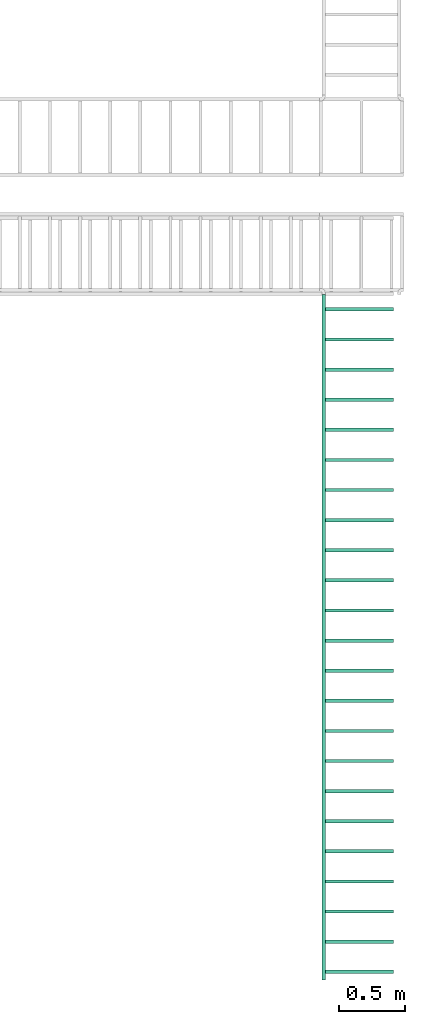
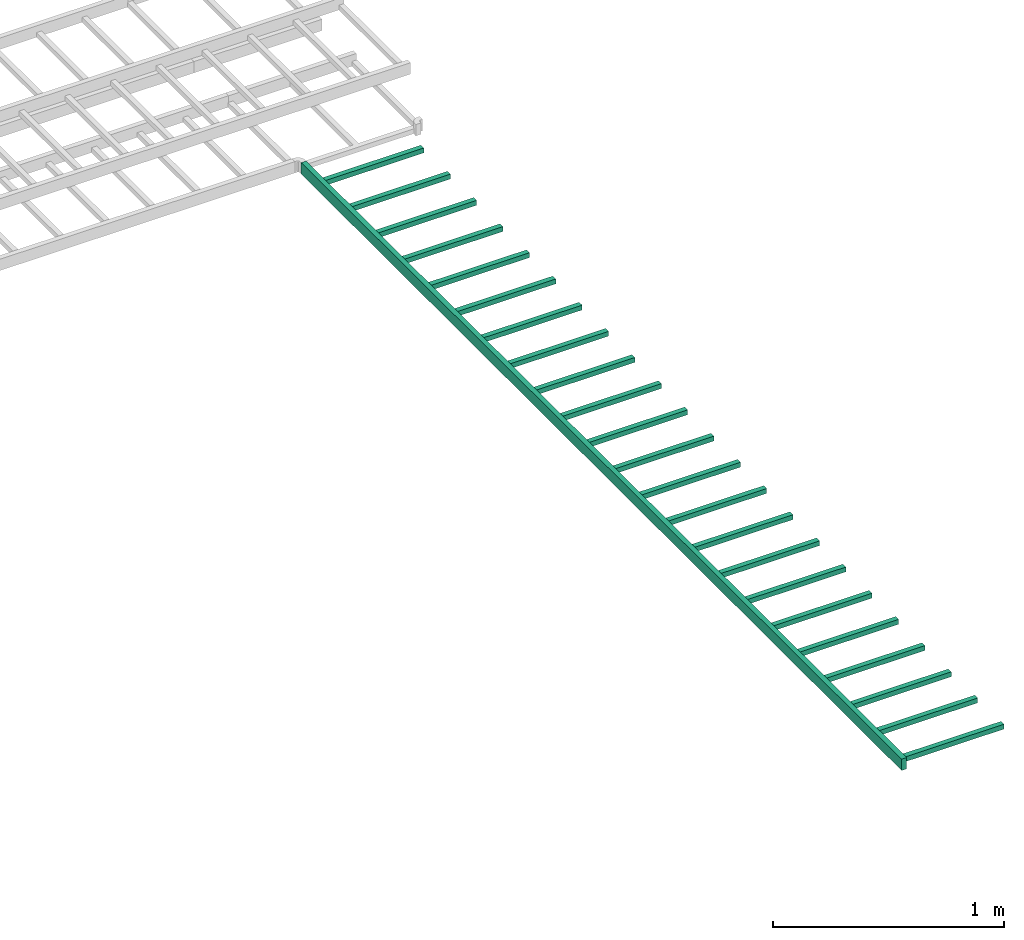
# One storey, part 6 of 7: 1 flow segment.
"""IFC2X3 building model written with IfcOpenShell, lengths in millimetres."""

from ifc_helpers import new_model, entity, si_unit, converted_unit, derived_unit, direction, frame, place, context, subcontext, project, spatial, faceted_brep, type_object, element, save


model = new_model("IFC2X3")

# Units and contexts
model_context = context("Model", 3, precision=0.01, world=frame((0.0, 4.29681676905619e-09, 0.0)), true_north=direction((4.01073788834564e-13, 1.0)))
plan_context = context("Plan", 3, precision=0.01, world=frame((0.0, 4.29681676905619e-09, 0.0)), true_north=direction((4.01073788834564e-13, 1.0)))
body_context = subcontext(model_context, "Body", "Model", "MODEL_VIEW")
ifc_project = project(units=[converted_unit("PLANEANGLEUNIT", "DEGREE", entity("IfcPositiveLengthMeasure", 0.0174532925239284), si_unit("PLANEANGLEUNIT", "RADIAN"), dimensions=[0, 0, 0, 0, 0, 0, 0]), si_unit("AREAUNIT", "SQUARE_METRE"), si_unit("LENGTHUNIT", "METRE", prefix="MILLI"), si_unit("MASSUNIT", "GRAM", prefix="KILO"), si_unit("POWERUNIT", "WATT"), si_unit("PRESSUREUNIT", "PASCAL", prefix="KILO"), si_unit("FORCEUNIT", "NEWTON", prefix="KILO"), si_unit("ELECTRICVOLTAGEUNIT", "VOLT"), si_unit("ELECTRICCURRENTUNIT", "AMPERE"), si_unit("THERMODYNAMICTEMPERATUREUNIT", "DEGREE_CELSIUS"), si_unit("TIMEUNIT", "SECOND"), si_unit("VOLUMEUNIT", "CUBIC_METRE"), derived_unit("LINEARVELOCITYUNIT", [(si_unit("LENGTHUNIT", "METRE"), 1), (si_unit("TIMEUNIT", "SECOND"), -1)]), derived_unit("VOLUMETRICFLOWRATEUNIT", [(si_unit("VOLUMEUNIT", "CUBIC_METRE"), 1), (si_unit("TIMEUNIT", "SECOND"), -1)]), derived_unit("THERMALTRANSMITTANCEUNIT", [(si_unit("POWERUNIT", "WATT"), 1), (si_unit("THERMODYNAMICTEMPERATUREUNIT", "KELVIN"), -1), (si_unit("AREAUNIT", "SQUARE_METRE"), -1)]), derived_unit("SOUNDPRESSUREUNIT", [(si_unit("PRESSUREUNIT", "PASCAL"), 1)])], contexts=[model_context, plan_context])

# Site, building, storey
site_placement = place(None, frame((0.0, -4.29681676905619e-09, 0.0), z_axis=(0.0, 0.0, 1.0), x_axis=(1.0, 0.0, 0.0)))
site = spatial("IfcSite", under=ifc_project, at=site_placement, Name="ENGM", CompositionType="ELEMENT")
building_placement = place(site_placement, frame((0.0, 4.29681676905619e-09, 0.0), z_axis=(0.0, 0.0, 1.0), x_axis=(1.0, 0.0, 0.0)))
building = spatial("IfcBuilding", under=site, at=building_placement, Name="TS", CompositionType="ELEMENT")
storey_placement = place(building_placement, frame((0.0, 0.0, 207370.0), z_axis=(0.0, 0.0, 1.0), x_axis=(1.0, 0.0, 0.0)))
storey = spatial("IfcBuildingStorey", under=building, at=storey_placement, Name="Nivå E", CompositionType="ELEMENT", Elevation=207370.0)

# Flow segment
cable_carrier_segment_type = type_object("IfcCableCarrierSegmentType", Name="Kabelbro", PredefinedType="CABLELADDERSEGMENT")
flow_segment_placement = place(storey_placement, frame((728901.36631, 433875.5316, 2635.0), z_axis=(0.0, 0.0, 1.0), x_axis=(0.0, 1.0, 0.0)))
element("IfcFlowSegment", 1, at=flow_segment_placement, inside=storey, type_object=cable_carrier_segment_type, Name="Kabelbro", context=body_context, shape_type="Brep", body=[
    faceted_brep([(673.09998, 274.60001, -30.0), (698.50002, 274.60001, -30.0), (698.50002, 274.60001, -4.6), (673.09998, 274.60001, -4.6), (698.50002, -241.223476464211, -28.4563657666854), (698.50002, -241.223476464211, -4.6), (698.50002, -241.223476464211, -30.0), (696.956383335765, -241.223476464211, -4.6), (673.09998, -241.223476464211, -4.6), (673.09998, -241.223476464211, -6.14363423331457), (673.09998, -241.223476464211, -30.0), (674.643616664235, -241.223476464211, -30.0), (901.69998, 274.60001, -30.0), (927.10002, 274.60001, -30.0), (927.10002, 274.60001, -4.6), (901.69998, 274.60001, -4.6), (927.10002, -241.223476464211, -28.4563657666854), (927.10002, -241.223476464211, -4.6), (927.10002, -241.223476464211, -30.0), (925.556383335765, -241.223476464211, -4.6), (901.69998, -241.223476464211, -4.6), (901.69998, -241.223476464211, -6.14363423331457), (901.69998, -241.223476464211, -30.0), (903.243616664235, -241.223476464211, -30.0), (1130.29998, 274.60001, -30.0), (1155.70002, 274.60001, -30.0), (1155.70002, 274.60001, -4.6), (1130.29998, 274.60001, -4.6), (1155.70002, -241.223476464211, -28.4563657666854), (1155.70002, -241.223476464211, -4.6), (1155.70002, -241.223476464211, -30.0), (1154.15638333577, -241.223476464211, -4.6), (1130.29998, -241.223476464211, -4.6), (1130.29998, -241.223476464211, -6.14363423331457), (1130.29998, -241.223476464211, -30.0), (1131.84361666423, -241.223476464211, -30.0), (1358.90005, 274.60001, -30.0), (1384.29995, 274.60001, -30.0), (1384.29995, 274.60001, -4.6), (1358.90005, 274.60001, -4.6), (1384.29995, -241.223476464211, -28.4563657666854), (1384.29995, -241.223476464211, -4.6), (1384.29995, -241.223476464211, -30.0), (1382.75632184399, -241.223476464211, -4.6), (1358.90005, -241.223476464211, -4.6), (1358.90005, -241.223476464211, -6.14363423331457), (1358.90005, -241.223476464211, -30.0), (1360.44367815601, -241.223476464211, -30.0), (1587.50005, 274.60001, -30.0), (1612.89995, 274.60001, -30.0), (1612.89995, 274.60001, -4.6), (1587.50005, 274.60001, -4.6), (1612.89995, -241.223476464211, -28.4563657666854), (1612.89995, -241.223476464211, -4.6), (1612.89995, -241.223476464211, -30.0), (1611.35632184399, -241.223476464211, -4.6), (1587.50005, -241.223476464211, -4.6), (1587.50005, -241.223476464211, -6.14363423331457), (1587.50005, -241.223476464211, -30.0), (1589.04367815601, -241.223476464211, -30.0), (1816.10005, 274.60001, -30.0), (1841.49995, 274.60001, -30.0), (1841.49995, 274.60001, -4.6), (1816.10005, 274.60001, -4.6), (1841.49995, -241.223476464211, -28.4563657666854), (1841.49995, -241.223476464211, -4.6), (1841.49995, -241.223476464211, -30.0), (1839.95632184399, -241.223476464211, -4.6), (1816.10005, -241.223476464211, -4.6), (1816.10005, -241.223476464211, -6.14363423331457), (1816.10005, -241.223476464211, -30.0), (1817.64367815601, -241.223476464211, -30.0), (2044.70005, 274.60001, -30.0), (2070.09995, 274.60001, -30.0), (2070.09995, 274.60001, -4.6), (2044.70005, 274.60001, -4.6), (2070.09995, -241.223476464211, -28.4563657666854), (2070.09995, -241.223476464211, -4.6), (2070.09995, -241.223476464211, -30.0), (2068.55632184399, -241.223476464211, -4.6), (2044.70005, -241.223476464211, -4.6), (2044.70005, -241.223476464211, -6.14363423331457), (2044.70005, -241.223476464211, -30.0), (2046.24367815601, -241.223476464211, -30.0), (2273.30005, 274.60001, -30.0), (2298.69995, 274.60001, -30.0), (2298.69995, 274.60001, -4.6), (2273.30005, 274.60001, -4.6), (2298.69995, -241.223476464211, -28.4563657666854), (2298.69995, -241.223476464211, -4.6), (2298.69995, -241.223476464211, -30.0), (2297.15632184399, -241.223476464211, -4.6), (2273.30005, -241.223476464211, -4.6), (2273.30005, -241.223476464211, -6.14363423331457), (2273.30005, -241.223476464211, -30.0), (2274.84367815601, -241.223476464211, -30.0), (2501.8999, 274.60001, -30.0), (2527.3001, 274.60001, -30.0), (2527.3001, 274.60001, -4.6), (2501.8999, 274.60001, -4.6), (2527.3001, -241.223476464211, -28.4563657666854), (2527.3001, -241.223476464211, -4.6), (2527.3001, -241.223476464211, -30.0), (2525.75645361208, -241.223476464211, -4.6), (2501.8999, -241.223476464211, -4.6), (2501.8999, -241.223476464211, -6.14363423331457), (2501.8999, -241.223476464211, -30.0), (2503.44354638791, -241.223476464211, -30.0), (2730.4999, 274.60001, -30.0), (2755.9001, 274.60001, -30.0), (2755.9001, 274.60001, -4.6), (2730.4999, 274.60001, -4.6), (2755.9001, -241.223476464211, -28.4563657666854), (2755.9001, -241.223476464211, -4.6), (2755.9001, -241.223476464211, -30.0), (2754.35645361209, -241.223476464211, -4.6), (2730.4999, -241.223476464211, -4.6), (2730.4999, -241.223476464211, -6.14363423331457), (2730.4999, -241.223476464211, -30.0), (2732.04354638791, -241.223476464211, -30.0), (2959.0999, 274.60001, -30.0), (2984.5001, 274.60001, -30.0), (2984.5001, 274.60001, -4.6), (2959.0999, 274.60001, -4.6), (2984.5001, -241.223476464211, -28.4563657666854), (2984.5001, -241.223476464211, -4.6), (2984.5001, -241.223476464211, -30.0), (2982.95645361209, -241.223476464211, -4.6), (2959.0999, -241.223476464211, -4.6), (2959.0999, -241.223476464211, -6.14363423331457), (2959.0999, -241.223476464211, -30.0), (2960.64354638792, -241.223476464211, -30.0), (3187.6999, 274.60001, -30.0), (3213.1001, 274.60001, -30.0), (3213.1001, 274.60001, -4.6), (3187.6999, 274.60001, -4.6), (3213.1001, -241.223476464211, -28.4563657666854), (3213.1001, -241.223476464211, -4.6), (3213.1001, -241.223476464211, -30.0), (3211.55645361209, -241.223476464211, -4.6), (3187.6999, -241.223476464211, -4.6), (3187.6999, -241.223476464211, -6.14363423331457), (3187.6999, -241.223476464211, -30.0), (3189.24354638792, -241.223476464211, -30.0), (3416.2999, 274.60001, -30.0), (3441.7001, 274.60001, -30.0), (3441.7001, 274.60001, -4.6), (3416.2999, 274.60001, -4.6), (3441.7001, -241.223476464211, -28.4563657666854), (3441.7001, -241.223476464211, -4.6), (3441.7001, -241.223476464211, -30.0), (3440.15645361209, -241.223476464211, -4.6), (3416.2999, -241.223476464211, -4.6), (3416.2999, -241.223476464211, -6.14363423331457), (3416.2999, -241.223476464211, -30.0), (3417.84354638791, -241.223476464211, -30.0), (3644.8999, 274.60001, -30.0), (3670.3001, 274.60001, -30.0), (3670.3001, 274.60001, -4.6), (3644.8999, 274.60001, -4.6), (3670.3001, -241.223476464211, -28.4563657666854), (3670.3001, -241.223476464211, -4.6), (3670.3001, -241.223476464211, -30.0), (3668.75645361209, -241.223476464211, -4.6), (3644.8999, -241.223476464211, -4.6), (3644.8999, -241.223476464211, -6.14363423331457), (3644.8999, -241.223476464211, -30.0), (3646.44354638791, -241.223476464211, -30.0), (3873.4999, 274.60001, -30.0), (3898.9001, 274.60001, -30.0), (3898.9001, 274.60001, -4.6), (3873.4999, 274.60001, -4.6), (3898.9001, -241.223476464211, -28.4563657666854), (3898.9001, -241.223476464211, -4.6), (3898.9001, -241.223476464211, -30.0), (3897.35645361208, -241.223476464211, -4.6), (3873.4999, -241.223476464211, -4.6), (3873.4999, -241.223476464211, -6.14363423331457), (3873.4999, -241.223476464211, -30.0), (3875.04354638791, -241.223476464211, -30.0), (4102.0999, 274.60001, -30.0), (4127.5001, 274.60001, -30.0), (4127.5001, 274.60001, -4.6), (4102.0999, 274.60001, -4.6), (4127.5001, -241.223476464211, -28.4563657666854), (4127.5001, -241.223476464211, -4.6), (4127.5001, -241.223476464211, -30.0), (4125.95645361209, -241.223476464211, -4.6), (4102.0999, -241.223476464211, -4.6), (4102.0999, -241.223476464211, -6.14363423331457), (4102.0999, -241.223476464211, -30.0), (4103.64354638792, -241.223476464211, -30.0), (4330.6999, 274.60001, -30.0), (4356.1001, 274.60001, -30.0), (4356.1001, 274.60001, -4.6), (4330.6999, 274.60001, -4.6), (4356.1001, -241.223476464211, -28.4563657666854), (4356.1001, -241.223476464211, -4.6), (4356.1001, -241.223476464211, -30.0), (4354.55645361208, -241.223476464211, -4.6), (4330.6999, -241.223476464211, -4.6), (4330.6999, -241.223476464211, -6.14363423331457), (4330.6999, -241.223476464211, -30.0), (4332.24354638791, -241.223476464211, -30.0), (4559.2999, 274.60001, -30.0), (4584.7001, 274.60001, -30.0), (4584.7001, 274.60001, -4.6), (4559.2999, 274.60001, -4.6), (4584.7001, -241.223476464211, -28.4563657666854), (4584.7001, -241.223476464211, -4.6), (4584.7001, -241.223476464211, -30.0), (4583.15645361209, -241.223476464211, -4.6), (4559.2999, -241.223476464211, -4.6), (4559.2999, -241.223476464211, -6.14363423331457), (4559.2999, -241.223476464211, -30.0), (4560.84354638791, -241.223476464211, -30.0), (4787.8999, 274.60001, -30.0), (4813.3001, 274.60001, -30.0), (4813.3001, 274.60001, -4.6), (4787.8999, 274.60001, -4.6), (4813.3001, -241.223476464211, -28.4563657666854), (4813.3001, -241.223476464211, -4.6), (4813.3001, -241.223476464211, -30.0), (4811.75645361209, -241.223476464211, -4.6), (4787.8999, -241.223476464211, -4.6), (4787.8999, -241.223476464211, -6.14363423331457), (4787.8999, -241.223476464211, -30.0), (4789.44354638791, -241.223476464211, -30.0), (5016.50019, 274.60001, -30.0), (5041.89981, 274.60001, -30.0), (5041.89981, 274.60001, -4.6), (5016.50019, 274.60001, -4.6), (5041.89981, -241.223476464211, -28.4563657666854), (5041.89981, -241.223476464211, -4.6), (5041.89981, -241.223476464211, -30.0), (5040.35619886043, -241.223476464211, -4.6), (5016.50019, -241.223476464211, -4.6), (5016.50019, -241.223476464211, -6.14363423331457), (5016.50019, -241.223476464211, -30.0), (5018.04380113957, -241.223476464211, -30.0), (5245.10019, 274.60001, -30.0), (5270.49981, 274.60001, -30.0), (5270.49981, 274.60001, -4.6), (5245.10019, 274.60001, -4.6), (5270.49981, -241.223476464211, -28.4563657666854), (5270.49981, -241.223476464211, -4.6), (5270.49981, -241.223476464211, -30.0), (5268.95619886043, -241.223476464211, -4.6), (5245.10019, -241.223476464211, -4.6), (5245.10019, -241.223476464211, -6.14363423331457), (5245.10019, -241.223476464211, -30.0), (5246.64380113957, -241.223476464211, -30.0), (5473.70019, 274.60001, -30.0), (5499.09981, 274.60001, -30.0), (5499.09981, 274.60001, -4.6), (5473.70019, 274.60001, -4.6), (5499.09981, -241.223476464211, -28.4563657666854), (5499.09981, -241.223476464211, -4.6), (5499.09981, -241.223476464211, -30.0), (5497.55619886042, -241.223476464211, -4.6), (5473.70019, -241.223476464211, -4.6), (5473.70019, -241.223476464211, -6.14363423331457), (5473.70019, -241.223476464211, -30.0), (5475.24380113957, -241.223476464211, -30.0), (5702.30019, 274.60001, -30.0), (5727.69981, 274.60001, -30.0), (5727.69981, 274.60001, -4.6), (5702.30019, 274.60001, -4.6), (5727.69981, -241.223476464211, -28.4563657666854), (5727.69981, -241.223476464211, -4.6), (5727.69981, -241.223476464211, -30.0), (5726.15619886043, -241.223476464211, -4.6), (5702.30019, -241.223476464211, -4.6), (5702.30019, -241.223476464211, -6.14363423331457), (5702.30019, -241.223476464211, -30.0), (5703.84380113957, -241.223476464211, -30.0), (5829.86159, 274.60001, -30.0), (5829.86159, 274.60001, 30.0), (5829.86159, 300.0, 30.0), (5829.86159, 300.0, -30.0), (623.476388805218, 300.0, 23.5832810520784), (623.476388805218, 300.0, -30.0), (623.476388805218, 300.0, 30.0), (623.476388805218, 297.283590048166, -30.0), (623.476388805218, 274.60001, -30.0), (623.476388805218, 274.60001, -23.5832810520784), (623.476388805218, 274.60001, 30.0), (623.476388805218, 277.316419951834, 30.0)], [[[0, 1, 2]], [[2, 3, 0]], [[4, 5, 2]], [[6, 4, 2, 1]], [[7, 8, 3]], [[5, 7, 3, 2]], [[9, 10, 0]], [[8, 9, 0, 3]], [[11, 6, 1]], [[10, 11, 1, 0]], [[12, 13, 14]], [[14, 15, 12]], [[16, 17, 14]], [[18, 16, 14, 13]], [[19, 20, 15]], [[17, 19, 15, 14]], [[21, 22, 12]], [[20, 21, 12, 15]], [[23, 18, 13]], [[22, 23, 13, 12]], [[24, 25, 26]], [[26, 27, 24]], [[28, 29, 26]], [[30, 28, 26, 25]], [[31, 32, 27]], [[29, 31, 27, 26]], [[33, 34, 24]], [[32, 33, 24, 27]], [[35, 30, 25]], [[34, 35, 25, 24]], [[36, 37, 38]], [[38, 39, 36]], [[40, 41, 38]], [[42, 40, 38, 37]], [[43, 44, 39]], [[41, 43, 39, 38]], [[45, 46, 36]], [[44, 45, 36, 39]], [[47, 42, 37]], [[46, 47, 37, 36]], [[48, 49, 50]], [[50, 51, 48]], [[52, 53, 50]], [[54, 52, 50, 49]], [[55, 56, 51]], [[53, 55, 51, 50]], [[57, 58, 48]], [[56, 57, 48, 51]], [[59, 54, 49]], [[58, 59, 49, 48]], [[60, 61, 62]], [[62, 63, 60]], [[64, 65, 62]], [[66, 64, 62, 61]], [[67, 68, 63]], [[65, 67, 63, 62]], [[69, 70, 60]], [[68, 69, 60, 63]], [[71, 66, 61]], [[70, 71, 61, 60]], [[72, 73, 74]], [[74, 75, 72]], [[76, 77, 74]], [[78, 76, 74, 73]], [[79, 80, 75]], [[77, 79, 75, 74]], [[81, 82, 72]], [[80, 81, 72, 75]], [[83, 78, 73]], [[82, 83, 73, 72]], [[84, 85, 86]], [[86, 87, 84]], [[88, 89, 86]], [[90, 88, 86, 85]], [[91, 92, 87]], [[89, 91, 87, 86]], [[93, 94, 84]], [[92, 93, 84, 87]], [[95, 90, 85]], [[94, 95, 85, 84]], [[96, 97, 98]], [[98, 99, 96]], [[100, 101, 98]], [[102, 100, 98, 97]], [[103, 104, 99]], [[101, 103, 99, 98]], [[105, 106, 96]], [[104, 105, 96, 99]], [[107, 102, 97]], [[106, 107, 97, 96]], [[108, 109, 110]], [[110, 111, 108]], [[112, 113, 110]], [[114, 112, 110, 109]], [[115, 116, 111]], [[113, 115, 111, 110]], [[117, 118, 108]], [[116, 117, 108, 111]], [[119, 114, 109]], [[118, 119, 109, 108]], [[120, 121, 122]], [[122, 123, 120]], [[124, 125, 122]], [[126, 124, 122, 121]], [[127, 128, 123]], [[125, 127, 123, 122]], [[129, 130, 120]], [[128, 129, 120, 123]], [[131, 126, 121]], [[130, 131, 121, 120]], [[132, 133, 134]], [[134, 135, 132]], [[136, 137, 134]], [[138, 136, 134, 133]], [[139, 140, 135]], [[137, 139, 135, 134]], [[141, 142, 132]], [[140, 141, 132, 135]], [[143, 138, 133]], [[142, 143, 133, 132]], [[144, 145, 146]], [[146, 147, 144]], [[148, 149, 146]], [[150, 148, 146, 145]], [[151, 152, 147]], [[149, 151, 147, 146]], [[153, 154, 144]], [[152, 153, 144, 147]], [[155, 150, 145]], [[154, 155, 145, 144]], [[156, 157, 158]], [[158, 159, 156]], [[160, 161, 158]], [[162, 160, 158, 157]], [[163, 164, 159]], [[161, 163, 159, 158]], [[165, 166, 156]], [[164, 165, 156, 159]], [[167, 162, 157]], [[166, 167, 157, 156]], [[168, 169, 170]], [[170, 171, 168]], [[172, 173, 170]], [[174, 172, 170, 169]], [[175, 176, 171]], [[173, 175, 171, 170]], [[177, 178, 168]], [[176, 177, 168, 171]], [[179, 174, 169]], [[178, 179, 169, 168]], [[180, 181, 182]], [[182, 183, 180]], [[184, 185, 182]], [[186, 184, 182, 181]], [[187, 188, 183]], [[185, 187, 183, 182]], [[189, 190, 180]], [[188, 189, 180, 183]], [[191, 186, 181]], [[190, 191, 181, 180]], [[192, 193, 194]], [[194, 195, 192]], [[196, 197, 194]], [[198, 196, 194, 193]], [[199, 200, 195]], [[197, 199, 195, 194]], [[201, 202, 192]], [[200, 201, 192, 195]], [[203, 198, 193]], [[202, 203, 193, 192]], [[204, 205, 206]], [[206, 207, 204]], [[208, 209, 206]], [[210, 208, 206, 205]], [[211, 212, 207]], [[209, 211, 207, 206]], [[213, 214, 204]], [[212, 213, 204, 207]], [[215, 210, 205]], [[214, 215, 205, 204]], [[216, 217, 218]], [[218, 219, 216]], [[220, 221, 218]], [[222, 220, 218, 217]], [[223, 224, 219]], [[221, 223, 219, 218]], [[225, 226, 216]], [[224, 225, 216, 219]], [[227, 222, 217]], [[226, 227, 217, 216]], [[228, 229, 230]], [[230, 231, 228]], [[232, 233, 230]], [[234, 232, 230, 229]], [[235, 236, 231]], [[233, 235, 231, 230]], [[237, 238, 228]], [[236, 237, 228, 231]], [[239, 234, 229]], [[238, 239, 229, 228]], [[240, 241, 242]], [[242, 243, 240]], [[244, 245, 242]], [[246, 244, 242, 241]], [[247, 248, 243]], [[245, 247, 243, 242]], [[249, 250, 240]], [[248, 249, 240, 243]], [[251, 246, 241]], [[250, 251, 241, 240]], [[252, 253, 254]], [[254, 255, 252]], [[256, 257, 254]], [[258, 256, 254, 253]], [[259, 260, 255]], [[257, 259, 255, 254]], [[261, 262, 252]], [[260, 261, 252, 255]], [[263, 258, 253]], [[262, 263, 253, 252]], [[264, 265, 266]], [[266, 267, 264]], [[268, 269, 266]], [[270, 268, 266, 265]], [[271, 272, 267]], [[269, 271, 267, 266]], [[273, 274, 264]], [[272, 273, 264, 267]], [[275, 270, 265]], [[274, 275, 265, 264]], [[276, 277, 278]], [[278, 279, 276]], [[280, 281, 279]], [[282, 280, 279, 278]], [[283, 284, 276]], [[281, 283, 276, 279]], [[285, 286, 277]], [[284, 285, 277, 276]], [[287, 282, 278]], [[286, 287, 278, 277]], [[6, 11, 10, 9, 8, 7, 5, 4]], [[18, 23, 22, 21, 20, 19, 17, 16]], [[30, 35, 34, 33, 32, 31, 29, 28]], [[42, 47, 46, 45, 44, 43, 41, 40]], [[54, 59, 58, 57, 56, 55, 53, 52]], [[66, 71, 70, 69, 68, 67, 65, 64]], [[78, 83, 82, 81, 80, 79, 77, 76]], [[90, 95, 94, 93, 92, 91, 89, 88]], [[102, 107, 106, 105, 104, 103, 101, 100]], [[114, 119, 118, 117, 116, 115, 113, 112]], [[126, 131, 130, 129, 128, 127, 125, 124]], [[138, 143, 142, 141, 140, 139, 137, 136]], [[150, 155, 154, 153, 152, 151, 149, 148]], [[162, 167, 166, 165, 164, 163, 161, 160]], [[174, 179, 178, 177, 176, 175, 173, 172]], [[186, 191, 190, 189, 188, 187, 185, 184]], [[198, 203, 202, 201, 200, 199, 197, 196]], [[210, 215, 214, 213, 212, 211, 209, 208]], [[222, 227, 226, 225, 224, 223, 221, 220]], [[234, 239, 238, 237, 236, 235, 233, 232]], [[246, 251, 250, 249, 248, 247, 245, 244]], [[258, 263, 262, 261, 260, 259, 257, 256]], [[270, 275, 274, 273, 272, 271, 269, 268]], [[282, 287, 286, 285, 284, 283, 281, 280]]], orient=[[False], [False], [False], [False], [False], [False], [False], [False], [False], [False], [False], [False], [False], [False], [False], [False], [False], [False], [False], [False], [False], [False], [False], [False], [False], [False], [False], [False], [False], [False], [False], [False], [False], [False], [False], [False], [False], [False], [False], [False], [False], [False], [False], [False], [False], [False], [False], [False], [False], [False], [False], [False], [False], [False], [False], [False], [False], [False], [False], [False], [False], [False], [False], [False], [False], [False], [False], [False], [False], [False], [False], [False], [False], [False], [False], [False], [False], [False], [False], [False], [False], [False], [False], [False], [False], [False], [False], [False], [False], [False], [False], [False], [False], [False], [False], [False], [False], [False], [False], [False], [False], [False], [False], [False], [False], [False], [False], [False], [False], [False], [False], [False], [False], [False], [False], [False], [False], [False], [False], [False], [False], [False], [False], [False], [False], [False], [False], [False], [False], [False], [False], [False], [False], [False], [False], [False], [False], [False], [False], [False], [False], [False], [False], [False], [False], [False], [False], [False], [False], [False], [False], [False], [False], [False], [False], [False], [False], [False], [False], [False], [False], [False], [False], [False], [False], [False], [False], [False], [False], [False], [False], [False], [False], [False], [False], [False], [False], [False], [False], [False], [False], [False], [False], [False], [False], [False], [False], [False], [False], [False], [False], [False], [False], [False], [False], [False], [False], [False], [False], [False], [False], [False], [False], [False], [False], [False], [False], [False], [False], [False], [False], [False], [False], [False], [False], [False], [False], [False], [False], [False], [False], [False], [False], [False], [False], [False], [False], [False], [False], [False], [False], [False], [False], [False], [False], [False], [False], [False], [False], [False], [False], [False], [False], [False], [False], [False], [False], [False], [False], [False], [False], [False], [False], [False], [False], [False], [False], [False], [False], [False], [False], [False], [False], [False]]),
])

save(model, "model.ifc")
